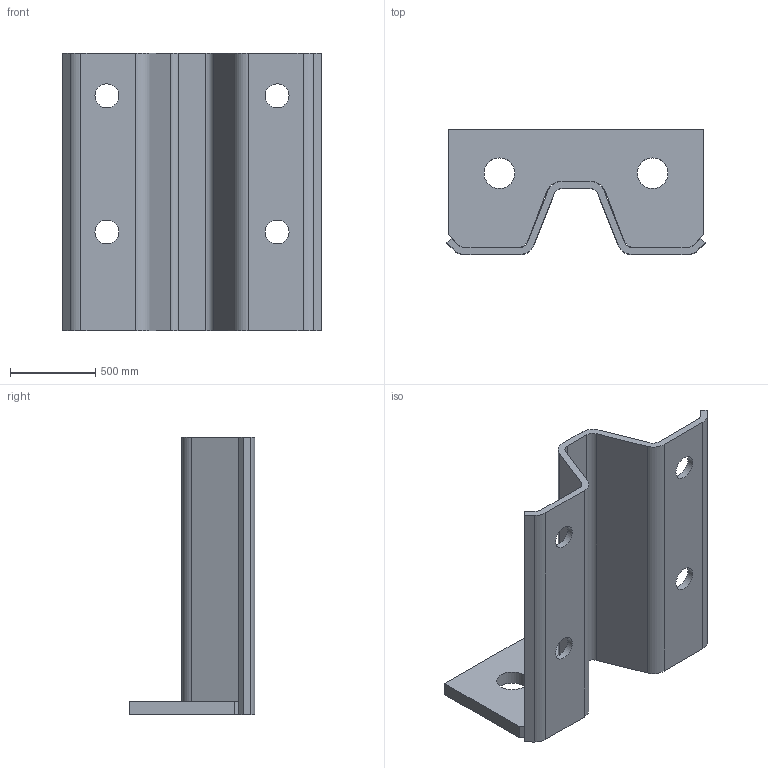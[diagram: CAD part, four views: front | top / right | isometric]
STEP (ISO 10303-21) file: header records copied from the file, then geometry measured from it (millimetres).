
FILE_DESCRIPTION(/* description */ (''),/* implementation_level */ '2;1');
FILE_NAME(/* name */ 'ZB185W90.stp',/* time_stamp */ '2024-10-31T15:18:15+01:00',/* author */ ('woriedl'),/* organization */ (''),/* preprocessor_version */ 'ST-DEVELOPER v20',/* originating_system */ 'AutoCAD Mechanical',/* authorisation */ '');
FILE_SCHEMA (('AUTOMOTIVE_DESIGN { 1 0 10303 214 3 1 1 }'));
Length unit declared in the file: centimetre
Products named in the file (3): Product; ZC185; W90
Assembly tree (2 placements, depth 2):
  Product
    ZC185
    W90
Bounding box: 1517.2 x 740 x 1630 mm (x, y, z)
Volume: 194480831.3 mm3; surface area: 8925344.9 mm2
Topology: 2 solids, 2 shells, 54 faces, 150 edges, 100 vertices
Faces by surface type: plane 30, cylinder 24
Full cylindrical faces by diameter (mm): 140 x4, 180 x2
Entity records: 1830 total; most frequent: DIRECTION 316, CARTESIAN_POINT 309, ORIENTED_EDGE 300, EDGE_CURVE 150, AXIS2_PLACEMENT_3D 107, LINE 102, VECTOR 102, VERTEX_POINT 100
